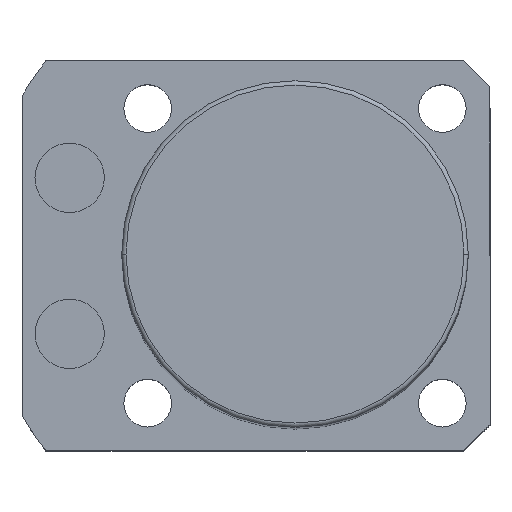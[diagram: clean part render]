
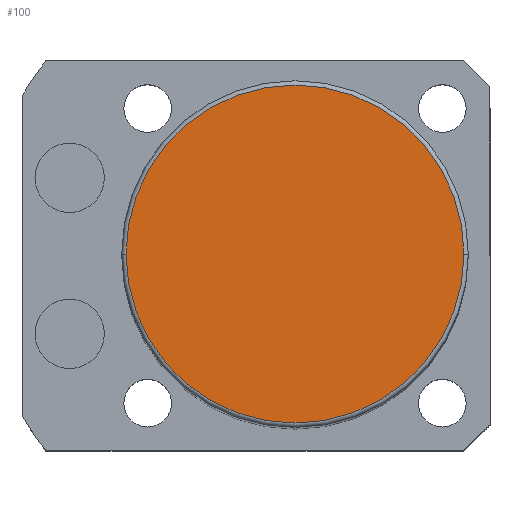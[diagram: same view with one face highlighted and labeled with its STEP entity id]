
A CAD part, top view. The second image highlights one B-rep face of the part: STEP entity #100.
In plain terms, the highlighted planar face has unit normal (0, 0, 1).
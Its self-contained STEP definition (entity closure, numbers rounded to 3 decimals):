
#37 = CIRCLE ( 'NONE', #1292, 19.5 ) ;
#87 = EDGE_CURVE ( 'NONE', #2022, #286, #505, .T. ) ;
#100 = ADVANCED_FACE ( 'NONE', ( #940 ), #107, .T. ) ;
#107 = PLANE ( 'NONE',  #509 ) ;
#286 = VERTEX_POINT ( 'NONE', #896 ) ;
#423 = CARTESIAN_POINT ( 'NONE',  ( 0., 0., 128.5 ) ) ;
#440 = DIRECTION ( 'NONE',  ( 1., 0., 0. ) ) ;
#505 = CIRCLE ( 'NONE', #1731, 19.5 ) ;
#509 = AXIS2_PLACEMENT_3D ( 'NONE', #1992, #1811, #2364 ) ;
#557 = EDGE_LOOP ( 'NONE', ( #1302, #2061 ) ) ;
#650 = DIRECTION ( 'NONE',  ( 0., 0., 1. ) ) ;
#661 = CARTESIAN_POINT ( 'NONE',  ( 0., 0., 128.5 ) ) ;
#841 = DIRECTION ( 'NONE',  ( 1., 0., 0. ) ) ;
#896 = CARTESIAN_POINT ( 'NONE',  ( -19.5, 0., 128.5 ) ) ;
#940 = FACE_OUTER_BOUND ( 'NONE', #557, .T. ) ;
#974 = DIRECTION ( 'NONE',  ( 0., 0., 1. ) ) ;
#1292 = AXIS2_PLACEMENT_3D ( 'NONE', #423, #974, #440 ) ;
#1302 = ORIENTED_EDGE ( 'NONE', *, *, #87, .T. ) ;
#1489 = EDGE_CURVE ( 'NONE', #286, #2022, #37, .T. ) ;
#1707 = CARTESIAN_POINT ( 'NONE',  ( 19.5, 0., 128.5 ) ) ;
#1731 = AXIS2_PLACEMENT_3D ( 'NONE', #661, #650, #841 ) ;
#1811 = DIRECTION ( 'NONE',  ( 0., 0., 1. ) ) ;
#1992 = CARTESIAN_POINT ( 'NONE',  ( 0., 0., 128.5 ) ) ;
#2022 = VERTEX_POINT ( 'NONE', #1707 ) ;
#2061 = ORIENTED_EDGE ( 'NONE', *, *, #1489, .T. ) ;
#2364 = DIRECTION ( 'NONE',  ( 1., 0., 0. ) ) ;
